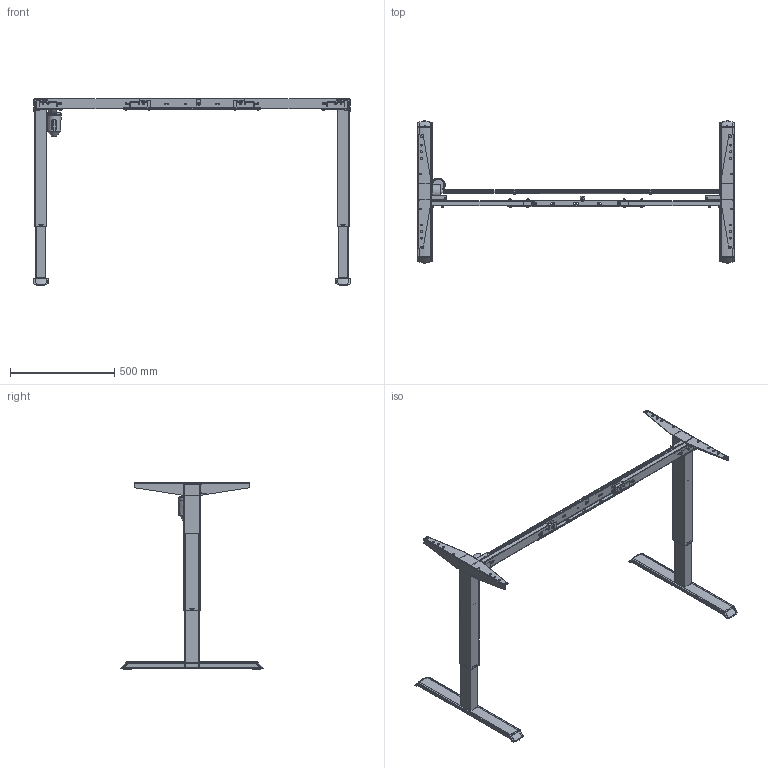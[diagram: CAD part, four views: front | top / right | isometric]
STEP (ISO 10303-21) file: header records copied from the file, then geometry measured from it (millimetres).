
FILE_DESCRIPTION (( 'STEP AP203' ), '1' );
FILE_NAME ('Tech-draw_501-33_XX112-152.STEP', '2019-09-25T10:17:25', ( '' ), ( '' ), 'SwSTEP 2.0', 'SolidWorks 2018', '' );
FILE_SCHEMA (( 'CONFIG_CONTROL_DESIGN' ));
Length unit declared in the file: millimetre
Products named in the file (39): 140860_silver1; 137810; 343080; 140340_L=152 travers; 137820_W5; 340760_zinc; 344270; 149070_501-33 XS112-152; 340580; 304650_silver; 345620_shell view; 140920_silver; 140950_silver1; 140930_silver; 340540_shell view; 140850_silver1; 341800_silver; 344430_silver; 345600; 343090; 343380; 344280; 345610_shell view; 348720_shell view; 140910_silver; 324420; 345630_shell view; 324520_silver; 344390; 352600; 149460; 344820_shell view; 300490; 340760; 343330; 343340; 332570; 351320; Tech-draw_501-33_XX112-152
Assembly tree (73 placements, depth 6):
  Tech-draw_501-33_XX112-152
    149070_501-33 XS112-152
      140920_silver
        140860_silver1
          345610_shell view
          344820_shell view
          348720_shell view
        140930_silver
          140950_silver1
            345620_shell view
            345630_shell view
            351320
        324520_silver  x2
        341800_silver  x4
        344430_silver
        352600
      140910_silver
        140850_silver1
          345600
          344820_shell view
          340540_shell view
        140930_silver
          140950_silver1
            345620_shell view
            345630_shell view
            351320
        324520_silver  x2
        341800_silver  x4
      340760  x4
      332570  x4
      149460
        137820_W5
          343340
          137810  x2
            343330
            340580
        140340_L=152 travers
          344270
          344280  x2
          343090  x2
          343080  x2
          324420  x2
          343380
        344390
        340760_zinc  x4
        304650_silver  x5
        300490  x5
Bounding box: 1526 x 683.9 x 898.46 mm (x, y, z)
Volume: 2495467.9 mm3; surface area: 2742617.8 mm2
Topology: 66 solids, 66 shells, 4100 faces, 10755 edges, 6840 vertices
Faces by surface type: plane 2258, cylinder 1411, bspline 277, torus 85, cone 69
Full cylindrical faces by diameter (mm): 2 x2, 2.8 x4, 3.3 x8, 4.6 x4, 5 x8, 5.5 x1, 6 x24, 6.5 x14, 7 x16, 7.4 x4, 7.6 x4, 8 x24, 8.4 x2, 10 x12, 12 x1, 13.4 x2, 15 x4, 16 x1, 17 x2, 17.2 x2, 20 x2, 23.2 x2, 24 x1, 37.6 x8, 60 x1
Entity records: 97413 total; most frequent: CARTESIAN_POINT 39379, ORIENTED_EDGE 11304, DIRECTION 10781, EDGE_CURVE 5652, AXIS2_PLACEMENT_3D 3931, VERTEX_POINT 3688, LINE 2919, VECTOR 2919
